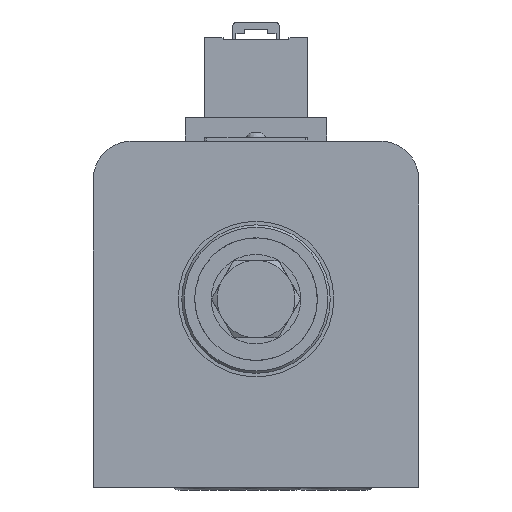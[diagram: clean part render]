
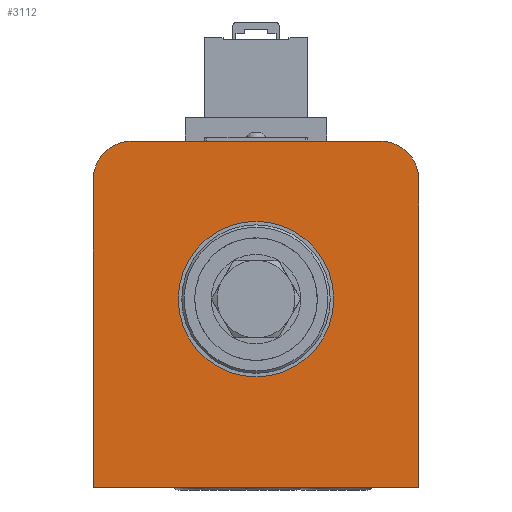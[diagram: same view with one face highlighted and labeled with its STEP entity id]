
A CAD part, left-side view. The second image highlights one B-rep face of the part: STEP entity #3112.
In plain terms, the highlighted planar face has unit normal (-1, 0, 0).
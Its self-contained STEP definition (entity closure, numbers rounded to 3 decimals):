
#588=LINE('',#13397,#1027);
#601=LINE('',#13429,#1040);
#622=LINE('',#13516,#1061);
#623=LINE('',#13518,#1062);
#631=LINE('',#13556,#1070);
#1027=VECTOR('',#10002,1.);
#1040=VECTOR('',#10017,1.);
#1061=VECTOR('',#10070,1.);
#1062=VECTOR('',#10071,1.);
#1070=VECTOR('',#10113,1.);
#2712=PLANE('',#8876);
#3112=ADVANCED_FACE('',(#3595,#3596),#2712,.T.);
#3595=FACE_BOUND('',#4035,.T.);
#3596=FACE_BOUND('',#4036,.T.);
#4035=EDGE_LOOP('',(#5113,#5114,#5115,#5116,#5117,#5118,#5119));
#4036=EDGE_LOOP('',(#5120));
#5113=ORIENTED_EDGE('',*,*,#7610,.F.);
#5114=ORIENTED_EDGE('',*,*,#7609,.F.);
#5115=ORIENTED_EDGE('',*,*,#7626,.T.);
#5116=ORIENTED_EDGE('',*,*,#7557,.F.);
#5117=ORIENTED_EDGE('',*,*,#7630,.T.);
#5118=ORIENTED_EDGE('',*,*,#7571,.T.);
#5119=ORIENTED_EDGE('',*,*,#7627,.T.);
#5120=ORIENTED_EDGE('',*,*,#7631,.T.);
#6781=VERTEX_POINT('',#13396);
#6782=VERTEX_POINT('',#13398);
#6795=VERTEX_POINT('',#13428);
#6796=VERTEX_POINT('',#13430);
#6830=VERTEX_POINT('',#13515);
#6831=VERTEX_POINT('',#13517);
#6832=VERTEX_POINT('',#13519);
#6845=VERTEX_POINT('',#13558);
#7557=EDGE_CURVE('',#6781,#6782,#588,.T.);
#7571=EDGE_CURVE('',#6796,#6795,#601,.T.);
#7609=EDGE_CURVE('',#6830,#6831,#622,.T.);
#7610=EDGE_CURVE('',#6831,#6832,#623,.T.);
#7626=EDGE_CURVE('',#6830,#6782,#8404,.T.);
#7627=EDGE_CURVE('',#6795,#6832,#8405,.T.);
#7630=EDGE_CURVE('',#6781,#6796,#631,.T.);
#7631=EDGE_CURVE('',#6845,#6845,#8408,.T.);
#8404=CIRCLE('',#8868,8.);
#8405=CIRCLE('',#8870,8.);
#8408=CIRCLE('',#8875,16.5);
#8868=AXIS2_PLACEMENT_3D('',#13549,#10099,#10100);
#8870=AXIS2_PLACEMENT_3D('',#13551,#10103,#10104);
#8875=AXIS2_PLACEMENT_3D('',#13557,#10114,#10115);
#8876=AXIS2_PLACEMENT_3D('',#13559,#10116,#10117);
#10002=DIRECTION('',(0.,0.,1.));
#10017=DIRECTION('',(0.,0.,1.));
#10070=DIRECTION('',(0.,-1.,0.));
#10071=DIRECTION('',(0.,-1.,0.));
#10099=DIRECTION('',(-1.,0.,0.));
#10100=DIRECTION('',(0.,0.,1.));
#10103=DIRECTION('',(-1.,0.,0.));
#10104=DIRECTION('',(0.,0.,1.));
#10113=DIRECTION('',(0.,-1.,0.));
#10114=DIRECTION('',(1.,0.,0.));
#10115=DIRECTION('',(0.,0.,1.));
#10116=DIRECTION('',(-1.,0.,0.));
#10117=DIRECTION('',(0.,0.,-1.));
#13396=CARTESIAN_POINT('',(194.81,231.644,-73.5));
#13397=CARTESIAN_POINT('',(194.81,231.644,-120.));
#13398=CARTESIAN_POINT('',(194.81,231.644,-7.971));
#13428=CARTESIAN_POINT('',(194.81,162.644,-8.));
#13429=CARTESIAN_POINT('',(194.81,162.644,-120.));
#13430=CARTESIAN_POINT('',(194.81,162.644,-73.5));
#13515=CARTESIAN_POINT('',(194.81,223.644,0.));
#13516=CARTESIAN_POINT('',(194.81,231.134,0.));
#13517=CARTESIAN_POINT('',(194.81,213.145,0.));
#13518=CARTESIAN_POINT('',(194.81,167.644,0.));
#13519=CARTESIAN_POINT('',(194.81,170.644,0.));
#13549=CARTESIAN_POINT('',(194.81,223.644,-8.));
#13551=CARTESIAN_POINT('',(194.81,170.644,-8.));
#13556=CARTESIAN_POINT('',(194.81,231.134,-73.5));
#13557=CARTESIAN_POINT('',(194.81,197.144,-33.5));
#13558=CARTESIAN_POINT('',(194.81,197.144,-17.));
#13559=CARTESIAN_POINT('',(194.81,231.134,-120.));
